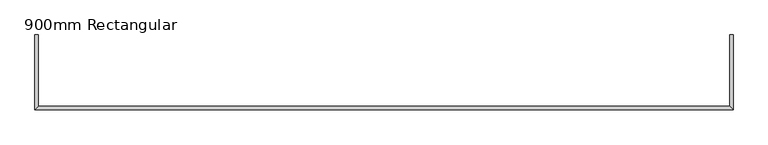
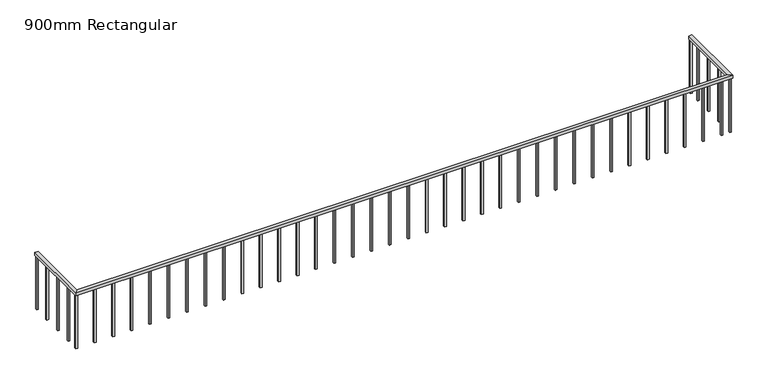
"""IFC4 building model written with IfcOpenShell, lengths in millimetres: railing geometry, 900mm Rectangular."""

from ifc_helpers import new_model, si_unit, frame, origin, place, context, project, spatial, polyline, outline, extrude, faceted_brep, source, transform, mapped, element, save


def railing_900mm_rectangular_6c18ea76(model_context):
    return source(origin(), model_context, "Body", "SolidModel", [
        faceted_brep([(2919.2181942, -4397.0090589, 7900.0), (2969.2181942, -4397.0090589, 7900.0), (2969.2181942, -4397.0090589, 7850.0), (2919.2181942, -4397.0090589, 7850.0), (12719.2181942, -4397.0090589, 7900.0), (12719.2181942, -4397.0090589, 7850.0), (12669.2181942, -4397.0090589, 7850.0), (12669.2181942, -4397.0090589, 7900.0), (2919.2181942, -5447.0090589, 7900.0), (2969.2181942, -5397.0090589, 7900.0), (2969.2181942, -5397.0090589, 7850.0), (2919.2181942, -5447.0090589, 7850.0), (12719.2181942, -5447.0090589, 7900.0), (12669.2181942, -5397.0090589, 7900.0), (12669.2181942, -5397.0090589, 7850.0), (12719.2181942, -5447.0090589, 7850.0)], [[[0, 1, 2, 3]], [[4, 5, 6, 7]], [[1, 0, 8, 9]], [[2, 1, 9, 10]], [[3, 2, 10, 11]], [[0, 3, 11, 8]], [[9, 8, 12, 13]], [[10, 9, 13, 14]], [[11, 10, 14, 15]], [[8, 11, 15, 12]], [[13, 12, 4, 7]], [[14, 13, 7, 6]], [[15, 14, 6, 5]], [[12, 15, 5, 4]]]),
        extrude(outline(polyline([(12706.7181942, -4609.5090589), (12681.7181942, -4609.5090589), (12681.7181942, -4584.5090589), (12706.7181942, -4584.5090589), (12706.7181942, -4609.5090589)])), frame((0.0, 0.0, 7000.0), z_axis=(0.0, 0.0, 1.0), x_axis=(1.0, 0.0, 0.0)), (0.0, 0.0, 1.0), 850.0),
        extrude(outline(polyline([(12706.7181942, -4884.5090589), (12681.7181942, -4884.5090589), (12681.7181942, -4859.5090589), (12706.7181942, -4859.5090589), (12706.7181942, -4884.5090589)])), frame((0.0, 0.0, 7000.0), z_axis=(0.0, 0.0, 1.0), x_axis=(1.0, 0.0, 0.0)), (0.0, 0.0, 1.0), 850.0),
        extrude(outline(polyline([(12706.7181942, -5159.5090589), (12681.7181942, -5159.5090589), (12681.7181942, -5134.5090589), (12706.7181942, -5134.5090589), (12706.7181942, -5159.5090589)])), frame((0.0, 0.0, 7000.0), z_axis=(0.0, 0.0, 1.0), x_axis=(1.0, 0.0, 0.0)), (0.0, 0.0, 1.0), 850.0),
        extrude(outline(polyline([(12556.7181942, -5434.5090589), (12556.7181942, -5409.5090589), (12581.7181942, -5409.5090589), (12581.7181942, -5434.5090589), (12556.7181942, -5434.5090589)])), frame((0.0, 0.0, 7000.0), z_axis=(0.0, 0.0, 1.0), x_axis=(1.0, 0.0, 0.0)), (0.0, 0.0, 1.0), 850.0),
        extrude(outline(polyline([(12281.7181942, -5434.5090589), (12281.7181942, -5409.5090589), (12306.7181942, -5409.5090589), (12306.7181942, -5434.5090589), (12281.7181942, -5434.5090589)])), frame((0.0, 0.0, 7000.0), z_axis=(0.0, 0.0, 1.0), x_axis=(1.0, 0.0, 0.0)), (0.0, 0.0, 1.0), 850.0),
        extrude(outline(polyline([(12006.7181942, -5434.5090589), (12006.7181942, -5409.5090589), (12031.7181942, -5409.5090589), (12031.7181942, -5434.5090589), (12006.7181942, -5434.5090589)])), frame((0.0, 0.0, 7000.0), z_axis=(0.0, 0.0, 1.0), x_axis=(1.0, 0.0, 0.0)), (0.0, 0.0, 1.0), 850.0),
        extrude(outline(polyline([(11731.7181942, -5434.5090589), (11731.7181942, -5409.5090589), (11756.7181942, -5409.5090589), (11756.7181942, -5434.5090589), (11731.7181942, -5434.5090589)])), frame((0.0, 0.0, 7000.0), z_axis=(0.0, 0.0, 1.0), x_axis=(1.0, 0.0, 0.0)), (0.0, 0.0, 1.0), 850.0),
        extrude(outline(polyline([(11456.7181942, -5434.5090589), (11456.7181942, -5409.5090589), (11481.7181942, -5409.5090589), (11481.7181942, -5434.5090589), (11456.7181942, -5434.5090589)])), frame((0.0, 0.0, 7000.0), z_axis=(0.0, 0.0, 1.0), x_axis=(1.0, 0.0, 0.0)), (0.0, 0.0, 1.0), 850.0),
        extrude(outline(polyline([(11181.7181942, -5434.5090589), (11181.7181942, -5409.5090589), (11206.7181942, -5409.5090589), (11206.7181942, -5434.5090589), (11181.7181942, -5434.5090589)])), frame((0.0, 0.0, 7000.0), z_axis=(0.0, 0.0, 1.0), x_axis=(1.0, 0.0, 0.0)), (0.0, 0.0, 1.0), 850.0),
        extrude(outline(polyline([(10906.7181942, -5434.5090589), (10906.7181942, -5409.5090589), (10931.7181942, -5409.5090589), (10931.7181942, -5434.5090589), (10906.7181942, -5434.5090589)])), frame((0.0, 0.0, 7000.0), z_axis=(0.0, 0.0, 1.0), x_axis=(1.0, 0.0, 0.0)), (0.0, 0.0, 1.0), 850.0),
        extrude(outline(polyline([(10631.7181942, -5434.5090589), (10631.7181942, -5409.5090589), (10656.7181942, -5409.5090589), (10656.7181942, -5434.5090589), (10631.7181942, -5434.5090589)])), frame((0.0, 0.0, 7000.0), z_axis=(0.0, 0.0, 1.0), x_axis=(1.0, 0.0, 0.0)), (0.0, 0.0, 1.0), 850.0),
        extrude(outline(polyline([(10356.7181942, -5434.5090589), (10356.7181942, -5409.5090589), (10381.7181942, -5409.5090589), (10381.7181942, -5434.5090589), (10356.7181942, -5434.5090589)])), frame((0.0, 0.0, 7000.0), z_axis=(0.0, 0.0, 1.0), x_axis=(1.0, 0.0, 0.0)), (0.0, 0.0, 1.0), 850.0),
        extrude(outline(polyline([(10081.7181942, -5434.5090589), (10081.7181942, -5409.5090589), (10106.7181942, -5409.5090589), (10106.7181942, -5434.5090589), (10081.7181942, -5434.5090589)])), frame((0.0, 0.0, 7000.0), z_axis=(0.0, 0.0, 1.0), x_axis=(1.0, 0.0, 0.0)), (0.0, 0.0, 1.0), 850.0),
        extrude(outline(polyline([(9806.7181942, -5434.5090589), (9806.7181942, -5409.5090589), (9831.7181942, -5409.5090589), (9831.7181942, -5434.5090589), (9806.7181942, -5434.5090589)])), frame((0.0, 0.0, 7000.0), z_axis=(0.0, 0.0, 1.0), x_axis=(1.0, 0.0, 0.0)), (0.0, 0.0, 1.0), 850.0),
        extrude(outline(polyline([(9531.7181942, -5434.5090589), (9531.7181942, -5409.5090589), (9556.7181942, -5409.5090589), (9556.7181942, -5434.5090589), (9531.7181942, -5434.5090589)])), frame((0.0, 0.0, 7000.0), z_axis=(0.0, 0.0, 1.0), x_axis=(1.0, 0.0, 0.0)), (0.0, 0.0, 1.0), 850.0),
        extrude(outline(polyline([(9256.7181942, -5434.5090589), (9256.7181942, -5409.5090589), (9281.7181942, -5409.5090589), (9281.7181942, -5434.5090589), (9256.7181942, -5434.5090589)])), frame((0.0, 0.0, 7000.0), z_axis=(0.0, 0.0, 1.0), x_axis=(1.0, 0.0, 0.0)), (0.0, 0.0, 1.0), 850.0),
        extrude(outline(polyline([(8981.7181942, -5434.5090589), (8981.7181942, -5409.5090589), (9006.7181942, -5409.5090589), (9006.7181942, -5434.5090589), (8981.7181942, -5434.5090589)])), frame((0.0, 0.0, 7000.0), z_axis=(0.0, 0.0, 1.0), x_axis=(1.0, 0.0, 0.0)), (0.0, 0.0, 1.0), 850.0),
        extrude(outline(polyline([(8706.7181942, -5434.5090589), (8706.7181942, -5409.5090589), (8731.7181942, -5409.5090589), (8731.7181942, -5434.5090589), (8706.7181942, -5434.5090589)])), frame((0.0, 0.0, 7000.0), z_axis=(0.0, 0.0, 1.0), x_axis=(1.0, 0.0, 0.0)), (0.0, 0.0, 1.0), 850.0),
        extrude(outline(polyline([(8431.7181942, -5434.5090589), (8431.7181942, -5409.5090589), (8456.7181942, -5409.5090589), (8456.7181942, -5434.5090589), (8431.7181942, -5434.5090589)])), frame((0.0, 0.0, 7000.0), z_axis=(0.0, 0.0, 1.0), x_axis=(1.0, 0.0, 0.0)), (0.0, 0.0, 1.0), 850.0),
        extrude(outline(polyline([(8156.7181942, -5434.5090589), (8156.7181942, -5409.5090589), (8181.7181942, -5409.5090589), (8181.7181942, -5434.5090589), (8156.7181942, -5434.5090589)])), frame((0.0, 0.0, 7000.0), z_axis=(0.0, 0.0, 1.0), x_axis=(1.0, 0.0, 0.0)), (0.0, 0.0, 1.0), 850.0),
        extrude(outline(polyline([(7881.7181942, -5434.5090589), (7881.7181942, -5409.5090589), (7906.7181942, -5409.5090589), (7906.7181942, -5434.5090589), (7881.7181942, -5434.5090589)])), frame((0.0, 0.0, 7000.0), z_axis=(0.0, 0.0, 1.0), x_axis=(1.0, 0.0, 0.0)), (0.0, 0.0, 1.0), 850.0),
        extrude(outline(polyline([(7606.7181942, -5434.5090589), (7606.7181942, -5409.5090589), (7631.7181942, -5409.5090589), (7631.7181942, -5434.5090589), (7606.7181942, -5434.5090589)])), frame((0.0, 0.0, 7000.0), z_axis=(0.0, 0.0, 1.0), x_axis=(1.0, 0.0, 0.0)), (0.0, 0.0, 1.0), 850.0),
        extrude(outline(polyline([(7331.7181942, -5434.5090589), (7331.7181942, -5409.5090589), (7356.7181942, -5409.5090589), (7356.7181942, -5434.5090589), (7331.7181942, -5434.5090589)])), frame((0.0, 0.0, 7000.0), z_axis=(0.0, 0.0, 1.0), x_axis=(1.0, 0.0, 0.0)), (0.0, 0.0, 1.0), 850.0),
        extrude(outline(polyline([(7056.7181942, -5434.5090589), (7056.7181942, -5409.5090589), (7081.7181942, -5409.5090589), (7081.7181942, -5434.5090589), (7056.7181942, -5434.5090589)])), frame((0.0, 0.0, 7000.0), z_axis=(0.0, 0.0, 1.0), x_axis=(1.0, 0.0, 0.0)), (0.0, 0.0, 1.0), 850.0),
        extrude(outline(polyline([(6781.7181942, -5434.5090589), (6781.7181942, -5409.5090589), (6806.7181942, -5409.5090589), (6806.7181942, -5434.5090589), (6781.7181942, -5434.5090589)])), frame((0.0, 0.0, 7000.0), z_axis=(0.0, 0.0, 1.0), x_axis=(1.0, 0.0, 0.0)), (0.0, 0.0, 1.0), 850.0),
        extrude(outline(polyline([(6506.7181942, -5434.5090589), (6506.7181942, -5409.5090589), (6531.7181942, -5409.5090589), (6531.7181942, -5434.5090589), (6506.7181942, -5434.5090589)])), frame((0.0, 0.0, 7000.0), z_axis=(0.0, 0.0, 1.0), x_axis=(1.0, 0.0, 0.0)), (0.0, 0.0, 1.0), 850.0),
        extrude(outline(polyline([(6231.7181942, -5434.5090589), (6231.7181942, -5409.5090589), (6256.7181942, -5409.5090589), (6256.7181942, -5434.5090589), (6231.7181942, -5434.5090589)])), frame((0.0, 0.0, 7000.0), z_axis=(0.0, 0.0, 1.0), x_axis=(1.0, 0.0, 0.0)), (0.0, 0.0, 1.0), 850.0),
        extrude(outline(polyline([(5956.7181942, -5434.5090589), (5956.7181942, -5409.5090589), (5981.7181942, -5409.5090589), (5981.7181942, -5434.5090589), (5956.7181942, -5434.5090589)])), frame((0.0, 0.0, 7000.0), z_axis=(0.0, 0.0, 1.0), x_axis=(1.0, 0.0, 0.0)), (0.0, 0.0, 1.0), 850.0),
        extrude(outline(polyline([(5681.7181942, -5434.5090589), (5681.7181942, -5409.5090589), (5706.7181942, -5409.5090589), (5706.7181942, -5434.5090589), (5681.7181942, -5434.5090589)])), frame((0.0, 0.0, 7000.0), z_axis=(0.0, 0.0, 1.0), x_axis=(1.0, 0.0, 0.0)), (0.0, 0.0, 1.0), 850.0),
        extrude(outline(polyline([(5406.7181942, -5434.5090589), (5406.7181942, -5409.5090589), (5431.7181942, -5409.5090589), (5431.7181942, -5434.5090589), (5406.7181942, -5434.5090589)])), frame((0.0, 0.0, 7000.0), z_axis=(0.0, 0.0, 1.0), x_axis=(1.0, 0.0, 0.0)), (0.0, 0.0, 1.0), 850.0),
        extrude(outline(polyline([(5131.7181942, -5434.5090589), (5131.7181942, -5409.5090589), (5156.7181942, -5409.5090589), (5156.7181942, -5434.5090589), (5131.7181942, -5434.5090589)])), frame((0.0, 0.0, 7000.0), z_axis=(0.0, 0.0, 1.0), x_axis=(1.0, 0.0, 0.0)), (0.0, 0.0, 1.0), 850.0),
        extrude(outline(polyline([(4856.7181942, -5434.5090589), (4856.7181942, -5409.5090589), (4881.7181942, -5409.5090589), (4881.7181942, -5434.5090589), (4856.7181942, -5434.5090589)])), frame((0.0, 0.0, 7000.0), z_axis=(0.0, 0.0, 1.0), x_axis=(1.0, 0.0, 0.0)), (0.0, 0.0, 1.0), 850.0),
        extrude(outline(polyline([(4581.7181942, -5434.5090589), (4581.7181942, -5409.5090589), (4606.7181942, -5409.5090589), (4606.7181942, -5434.5090589), (4581.7181942, -5434.5090589)])), frame((0.0, 0.0, 7000.0), z_axis=(0.0, 0.0, 1.0), x_axis=(1.0, 0.0, 0.0)), (0.0, 0.0, 1.0), 850.0),
        extrude(outline(polyline([(4306.7181942, -5434.5090589), (4306.7181942, -5409.5090589), (4331.7181942, -5409.5090589), (4331.7181942, -5434.5090589), (4306.7181942, -5434.5090589)])), frame((0.0, 0.0, 7000.0), z_axis=(0.0, 0.0, 1.0), x_axis=(1.0, 0.0, 0.0)), (0.0, 0.0, 1.0), 850.0),
        extrude(outline(polyline([(4031.7181942, -5434.5090589), (4031.7181942, -5409.5090589), (4056.7181942, -5409.5090589), (4056.7181942, -5434.5090589), (4031.7181942, -5434.5090589)])), frame((0.0, 0.0, 7000.0), z_axis=(0.0, 0.0, 1.0), x_axis=(1.0, 0.0, 0.0)), (0.0, 0.0, 1.0), 850.0),
        extrude(outline(polyline([(3756.7181942, -5434.5090589), (3756.7181942, -5409.5090589), (3781.7181942, -5409.5090589), (3781.7181942, -5434.5090589), (3756.7181942, -5434.5090589)])), frame((0.0, 0.0, 7000.0), z_axis=(0.0, 0.0, 1.0), x_axis=(1.0, 0.0, 0.0)), (0.0, 0.0, 1.0), 850.0),
        extrude(outline(polyline([(3481.7181942, -5434.5090589), (3481.7181942, -5409.5090589), (3506.7181942, -5409.5090589), (3506.7181942, -5434.5090589), (3481.7181942, -5434.5090589)])), frame((0.0, 0.0, 7000.0), z_axis=(0.0, 0.0, 1.0), x_axis=(1.0, 0.0, 0.0)), (0.0, 0.0, 1.0), 850.0),
        extrude(outline(polyline([(3206.7181942, -5434.5090589), (3206.7181942, -5409.5090589), (3231.7181942, -5409.5090589), (3231.7181942, -5434.5090589), (3206.7181942, -5434.5090589)])), frame((0.0, 0.0, 7000.0), z_axis=(0.0, 0.0, 1.0), x_axis=(1.0, 0.0, 0.0)), (0.0, 0.0, 1.0), 850.0),
        extrude(outline(polyline([(2931.7181942, -5209.5090589), (2956.7181942, -5209.5090589), (2956.7181942, -5234.5090589), (2931.7181942, -5234.5090589), (2931.7181942, -5209.5090589)])), frame((0.0, 0.0, 7000.0), z_axis=(0.0, 0.0, 1.0), x_axis=(1.0, 0.0, 0.0)), (0.0, 0.0, 1.0), 850.0),
        extrude(outline(polyline([(2931.7181942, -4934.5090589), (2956.7181942, -4934.5090589), (2956.7181942, -4959.5090589), (2931.7181942, -4959.5090589), (2931.7181942, -4934.5090589)])), frame((0.0, 0.0, 7000.0), z_axis=(0.0, 0.0, 1.0), x_axis=(1.0, 0.0, 0.0)), (0.0, 0.0, 1.0), 850.0),
        extrude(outline(polyline([(2931.7181942, -4659.5090589), (2956.7181942, -4659.5090589), (2956.7181942, -4684.5090589), (2931.7181942, -4684.5090589), (2931.7181942, -4659.5090589)])), frame((0.0, 0.0, 7000.0), z_axis=(0.0, 0.0, 1.0), x_axis=(1.0, 0.0, 0.0)), (0.0, 0.0, 1.0), 850.0),
        extrude(outline(polyline([(12681.7181942, -5434.5090589), (12681.7181942, -5409.5090589), (12706.7181942, -5409.5090589), (12706.7181942, -5434.5090589), (12681.7181942, -5434.5090589)])), frame((0.0, 0.0, 7000.0), z_axis=(0.0, 0.0, 1.0), x_axis=(1.0, 0.0, 0.0)), (0.0, 0.0, 1.0), 850.0),
        extrude(outline(polyline([(2931.7181942, -5409.5090589), (2956.7181942, -5409.5090589), (2956.7181942, -5434.5090589), (2931.7181942, -5434.5090589), (2931.7181942, -5409.5090589)])), frame((0.0, 0.0, 7000.0), z_axis=(0.0, 0.0, 1.0), x_axis=(1.0, 0.0, 0.0)), (0.0, 0.0, 1.0), 850.0),
        extrude(outline(polyline([(12706.7181942, -4422.0090589), (12681.7181942, -4422.0090589), (12681.7181942, -4397.0090589), (12706.7181942, -4397.0090589), (12706.7181942, -4422.0090589)])), frame((0.0, 0.0, 7000.0), z_axis=(0.0, 0.0, 1.0), x_axis=(1.0, 0.0, 0.0)), (0.0, 0.0, 1.0), 850.0),
        extrude(outline(polyline([(2931.7181942, -4397.0090589), (2956.7181942, -4397.0090589), (2956.7181942, -4422.0090589), (2931.7181942, -4422.0090589), (2931.7181942, -4397.0090589)])), frame((0.0, 0.0, 7000.0), z_axis=(0.0, 0.0, 1.0), x_axis=(1.0, 0.0, 0.0)), (0.0, 0.0, 1.0), 850.0),
    ])


if __name__ == "__main__":
    model = new_model("IFC4")
    model_context = context("Model", 3, world=origin())
    ifc_project = project(units=[si_unit("LENGTHUNIT", "METRE", prefix="MILLI")], contexts=[model_context])
    site = spatial("IfcSite", under=ifc_project)
    building = spatial("IfcBuilding", under=site)
    placement = place(None, origin())
    railing_900mm_rectangular_shape = railing_900mm_rectangular_6c18ea76(model_context)
    element("IfcRailing", 1, ObjectType="900mm Rectangular", at=placement, inside=building, context=model_context, shape_type="MappedRepresentation", body=[
        mapped(railing_900mm_rectangular_shape, transform((0.0, 0.0, 0.0), x_axis=(1.0, 0.0, 0.0), y_axis=(0.0, 1.0, 0.0), z_axis=(0.0, 0.0, 1.0))),
    ])
    save(model, "model.ifc")
